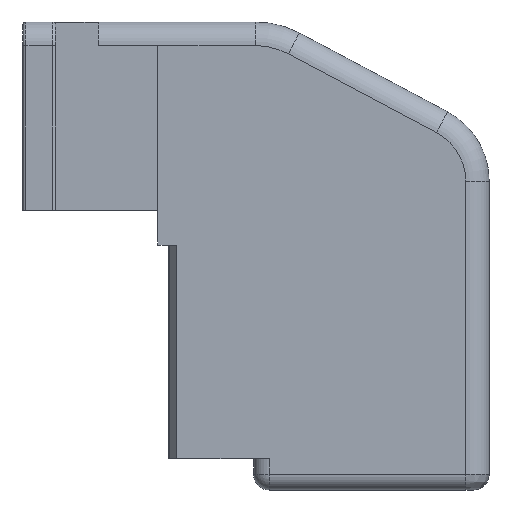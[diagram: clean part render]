
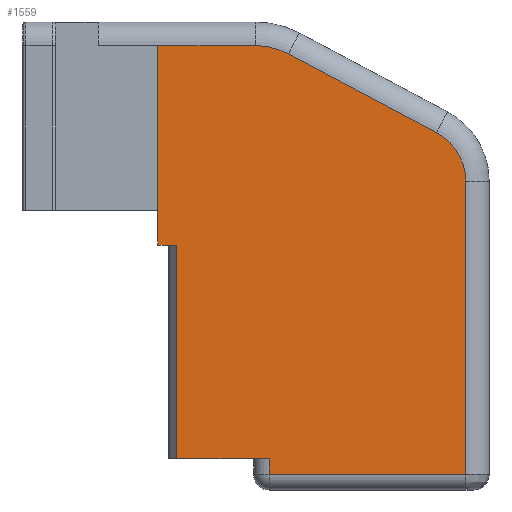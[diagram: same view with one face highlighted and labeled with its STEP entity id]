
A CAD part, front view. The second image highlights one B-rep face of the part: STEP entity #1559.
In plain terms, the highlighted planar face has unit normal (0, -1, 0) as drawn and (0, 0, -1) by its records, which use the part's own axes.
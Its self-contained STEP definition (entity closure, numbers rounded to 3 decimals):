
#74=DIRECTION('',(-1.,0.,0.));
#75=VECTOR('',#74,12.5);
#76=CARTESIAN_POINT('',(-1.,1.,-16.9));
#77=LINE('',#76,#75);
#78=DIRECTION('',(0.,-1.,0.));
#79=VECTOR('',#78,1.);
#80=CARTESIAN_POINT('',(-1.,2.,-16.9));
#81=LINE('',#80,#79);
#82=DIRECTION('',(0.,-1.,0.));
#83=VECTOR('',#82,13.6);
#84=CARTESIAN_POINT('',(4.9,15.6,-16.9));
#85=LINE('',#84,#83);
#86=DIRECTION('',(1.,0.,0.));
#87=VECTOR('',#86,6.2);
#88=CARTESIAN_POINT('',(-0.1,28.3,-16.9));
#89=LINE('',#88,#87);
#90=CARTESIAN_POINT('',(-0.1,23.8,-16.9));
#91=DIRECTION('',(0.,0.,-1.));
#92=DIRECTION('',(-0.469,0.883,0.));
#93=AXIS2_PLACEMENT_3D('',#90,#91,#92);
#95=DIRECTION('',(0.883,0.469,0.));
#96=VECTOR('',#95,10.681);
#97=CARTESIAN_POINT('',(-11.643,22.759,-16.9));
#98=LINE('',#97,#96);
#99=CARTESIAN_POINT('',(-10.,19.669,-16.9));
#100=DIRECTION('',(0.,0.,-1.));
#101=DIRECTION('',(-1.,0.,0.));
#102=AXIS2_PLACEMENT_3D('',#99,#100,#101);
#104=DIRECTION('',(0.,1.,0.));
#105=VECTOR('',#104,18.669);
#106=CARTESIAN_POINT('',(-13.5,1.,-16.9));
#107=LINE('',#106,#105);
#310=DIRECTION('',(-1.,0.,0.));
#311=VECTOR('',#310,1.2);
#312=CARTESIAN_POINT('',(6.1,15.6,-16.9));
#313=LINE('',#312,#311);
#370=DIRECTION('',(0.,-1.,0.));
#371=VECTOR('',#370,12.7);
#372=CARTESIAN_POINT('',(6.1,28.3,-16.9));
#373=LINE('',#372,#371);
#667=DIRECTION('',(-1.,0.,0.));
#668=VECTOR('',#667,5.9);
#669=CARTESIAN_POINT('',(4.9,2.,-16.9));
#670=LINE('',#669,#668);
#1238=CARTESIAN_POINT('',(-0.1,28.3,-16.9));
#1239=CARTESIAN_POINT('',(6.1,28.3,-16.9));
#1240=VERTEX_POINT('',#1238);
#1241=VERTEX_POINT('',#1239);
#1242=CARTESIAN_POINT('',(-2.213,27.773,-16.9));
#1243=VERTEX_POINT('',#1242);
#1246=CARTESIAN_POINT('',(-11.643,22.759,-16.9));
#1247=VERTEX_POINT('',#1246);
#1250=CARTESIAN_POINT('',(-13.5,19.669,-16.9));
#1251=VERTEX_POINT('',#1250);
#1336=CARTESIAN_POINT('',(6.1,15.6,-16.9));
#1337=VERTEX_POINT('',#1336);
#1384=CARTESIAN_POINT('',(4.9,15.6,-16.9));
#1385=VERTEX_POINT('',#1384);
#1450=CARTESIAN_POINT('',(-13.5,1.,-16.9));
#1451=VERTEX_POINT('',#1450);
#1452=CARTESIAN_POINT('',(-1.,1.,-16.9));
#1453=VERTEX_POINT('',#1452);
#1458=CARTESIAN_POINT('',(4.9,2.,-16.9));
#1459=VERTEX_POINT('',#1458);
#1526=CARTESIAN_POINT('',(-1.,2.,-16.9));
#1527=VERTEX_POINT('',#1526);
#1530=CARTESIAN_POINT('',(0.,0.,-16.9));
#1531=DIRECTION('',(0.,0.,1.));
#1532=DIRECTION('',(1.,0.,0.));
#1533=AXIS2_PLACEMENT_3D('',#1530,#1531,#1532);
#1534=PLANE('',#1533);
#1536=ORIENTED_EDGE('',*,*,#1535,.F.);
#1538=ORIENTED_EDGE('',*,*,#1537,.F.);
#1540=ORIENTED_EDGE('',*,*,#1539,.F.);
#1542=ORIENTED_EDGE('',*,*,#1541,.F.);
#1544=ORIENTED_EDGE('',*,*,#1543,.F.);
#1546=ORIENTED_EDGE('',*,*,#1545,.F.);
#1548=ORIENTED_EDGE('',*,*,#1547,.F.);
#1550=ORIENTED_EDGE('',*,*,#1549,.F.);
#1552=ORIENTED_EDGE('',*,*,#1551,.F.);
#1554=ORIENTED_EDGE('',*,*,#1553,.F.);
#1556=ORIENTED_EDGE('',*,*,#1555,.F.);
#1557=EDGE_LOOP('',(#1536,#1538,#1540,#1542,#1544,#1546,#1548,#1550,#1552,#1554,
#1556));
#1558=FACE_OUTER_BOUND('',#1557,.F.);
#94=CIRCLE('',#93,4.5);
#103=CIRCLE('',#102,3.5);
#1535=EDGE_CURVE('',#1453,#1451,#77,.T.);
#1537=EDGE_CURVE('',#1527,#1453,#81,.T.);
#1539=EDGE_CURVE('',#1459,#1527,#670,.T.);
#1541=EDGE_CURVE('',#1385,#1459,#85,.T.);
#1543=EDGE_CURVE('',#1337,#1385,#313,.T.);
#1545=EDGE_CURVE('',#1241,#1337,#373,.T.);
#1547=EDGE_CURVE('',#1240,#1241,#89,.T.);
#1549=EDGE_CURVE('',#1243,#1240,#94,.T.);
#1551=EDGE_CURVE('',#1247,#1243,#98,.T.);
#1553=EDGE_CURVE('',#1251,#1247,#103,.T.);
#1555=EDGE_CURVE('',#1451,#1251,#107,.T.);
#1559=ADVANCED_FACE('',(#1558),#1534,.F.);
